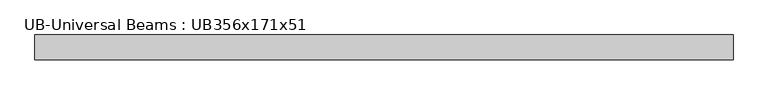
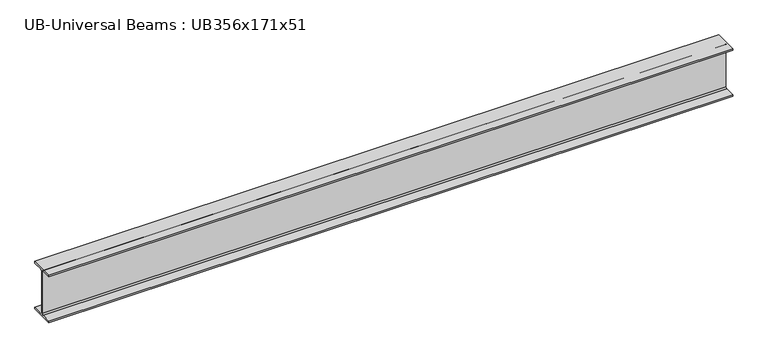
"""IFC4 building model written with IfcOpenShell, lengths in millimetres: beam geometry, UB-Universal Beams : UB356x171x51."""

from ifc_helpers import new_model, si_unit, point, frame, frame_2d, origin, place, context, project, spatial, polyline, circle_curve, trimmed, segment, composite_curve, outline, extrude, source, transform, mapped, element, save


def ub_universal_beams_ub356x171x51_11d6b780(model_context):
    return source(origin(), model_context, "Body", "SweptSolid", [
        extrude(outline(composite_curve([segment(polyline([(85.75, -166.0), (85.75, -177.5), (-85.75, -177.5), (-85.75, -166.0), (-13.9, -166.0)]), True, "CONTINUOUS"), segment(trimmed(circle_curve(frame_2d((-13.9, -155.8)), 10.2), [point((-13.9, -166.0))], [point((-3.7, -155.8))], True, "CARTESIAN"), True, "CONTINUOUS"), segment(polyline([(-3.7, -155.8), (-3.7, 155.8)]), True, "CONTINUOUS"), segment(trimmed(circle_curve(frame_2d((-13.9, 155.8)), 10.2), [point((-3.7, 155.8))], [point((-13.9, 166.0))], True, "CARTESIAN"), True, "CONTINUOUS"), segment(polyline([(-13.9, 166.0), (-85.75, 166.0), (-85.75, 177.5), (85.75, 177.5), (85.75, 166.0), (13.9, 166.0)]), True, "CONTINUOUS"), segment(trimmed(circle_curve(frame_2d((13.9, 155.8)), 10.2), [point((13.9, 166.0))], [point((3.7, 155.8))], True, "CARTESIAN"), True, "CONTINUOUS"), segment(polyline([(3.7, 155.8), (3.7, -155.8)]), True, "CONTINUOUS"), segment(trimmed(circle_curve(frame_2d((13.9, -155.8)), 10.2), [point((3.7, -155.8))], [point((13.9, -166.0))], True, "CARTESIAN"), True, "CONTINUOUS"), segment(polyline([(13.9, -166.0), (85.75, -166.0)]), True, "CONTINUOUS")], self_intersect=False)), frame((-2420.6, 0.0, 0.0), z_axis=(1.0, 0.0, 0.0), x_axis=(0.0, 1.0, 0.0)), (0.0, 0.0, 1.0), 4841.2),
    ])


if __name__ == "__main__":
    model = new_model("IFC4")
    model_context = context("Model", 3, world=origin())
    ifc_project = project(units=[si_unit("LENGTHUNIT", "METRE", prefix="MILLI")], contexts=[model_context])
    site = spatial("IfcSite", under=ifc_project)
    building = spatial("IfcBuilding", under=site)
    placement = place(None, origin())
    ub_universal_beams_ub356x171x51_shape = ub_universal_beams_ub356x171x51_11d6b780(model_context)
    element("IfcBeam", 1, ObjectType="UB-Universal Beams : UB356x171x51", at=placement, inside=building, context=model_context, shape_type="MappedRepresentation", body=[
        mapped(ub_universal_beams_ub356x171x51_shape, transform((0.0, 0.0, 0.0), x_axis=(1.0, 0.0, 0.0), y_axis=(0.0, 1.0, 0.0), z_axis=(0.0, 0.0, 1.0))),
    ])
    save(model, "model.ifc")
